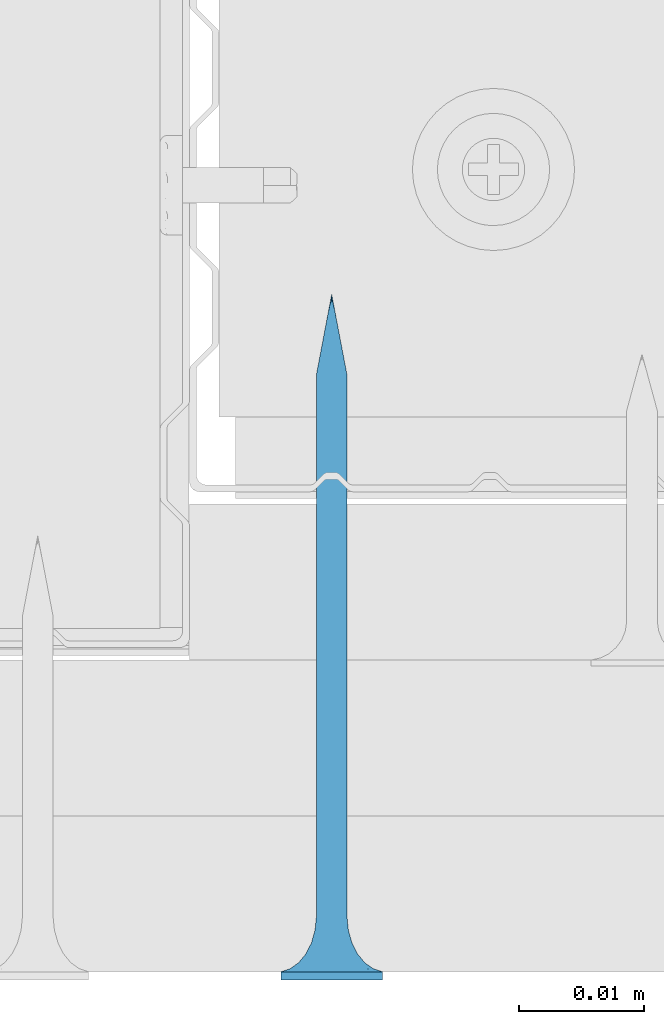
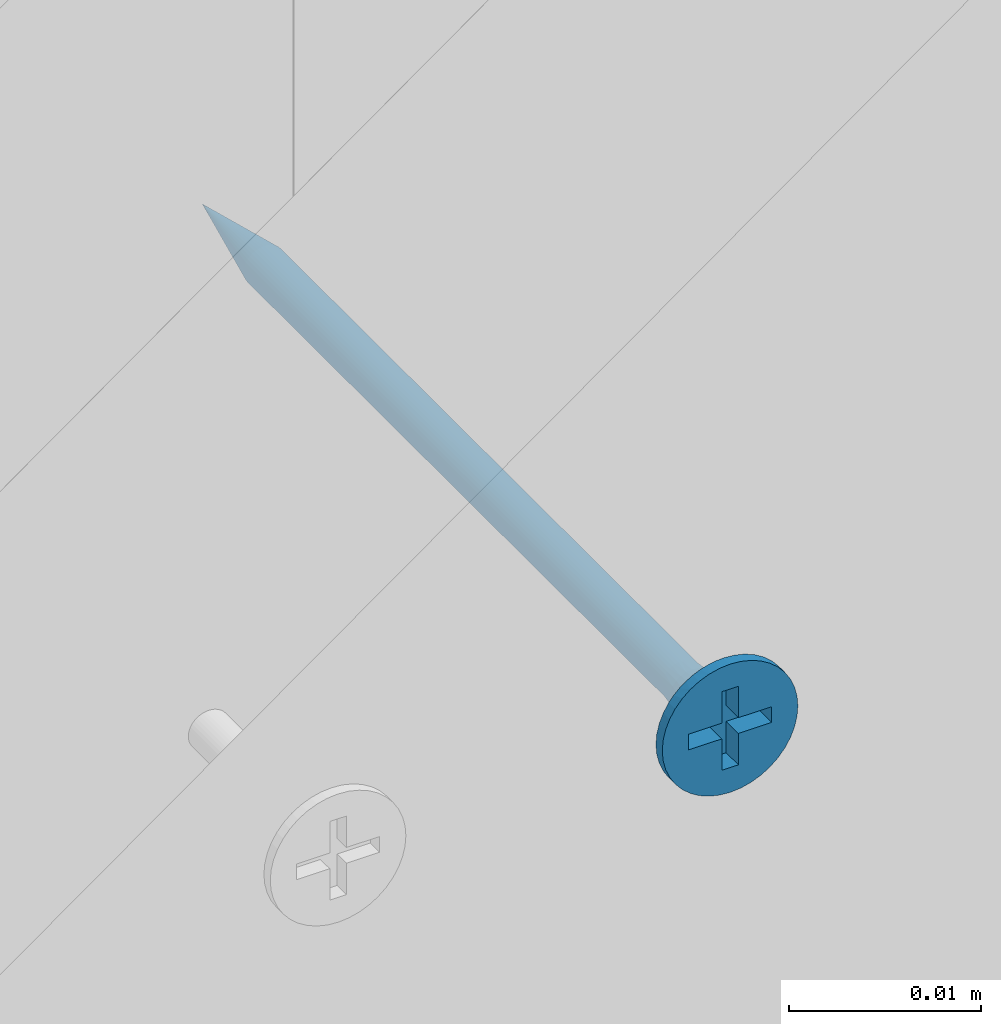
# One storey, part 31 of 39: 1 wall.
"""IFC2X3 building model written with IfcOpenShell, lengths in millimetres."""

from ifc_helpers import new_model, entity, si_unit, converted_unit, direction, frame, origin, origin_with_axes, place, context, project, spatial, faceted_brep, element, save


model = new_model("IFC2X3")

# Units and contexts
model_context = context("Model", 3, precision=1e-05, world=origin(), true_north=direction((0.0, 1.0, 0.0)))
ifc_project = project(units=[si_unit("LENGTHUNIT", "METRE", prefix="MILLI"), si_unit("AREAUNIT", "SQUARE_METRE"), si_unit("VOLUMEUNIT", "CUBIC_METRE"), converted_unit("PLANEANGLEUNIT", "DEGREE", entity("IfcPlaneAngleMeasure", 0.01745), si_unit("PLANEANGLEUNIT", "RADIAN"), dimensions=[0, 0, 0, 0, 0, 0, 0]), si_unit("SOLIDANGLEUNIT", "STERADIAN"), si_unit("MASSUNIT", "GRAM"), si_unit("TIMEUNIT", "SECOND"), si_unit("THERMODYNAMICTEMPERATUREUNIT", "DEGREE_CELSIUS"), si_unit("LUMINOUSINTENSITYUNIT", "LUMEN")], contexts=[model_context])

# Site, building, storey
site_placement = place(None, origin_with_axes())
site = spatial("IfcSite", under=ifc_project, at=site_placement, Name="Default Site", CompositionType="ELEMENT")
building_placement = place(site_placement, origin_with_axes())
building = spatial("IfcBuilding", under=site, at=building_placement, Name="Default Building", CompositionType="ELEMENT")
storey_placement = place(building_placement, origin_with_axes())
storey = spatial("IfcBuildingStorey", under=building, at=storey_placement, Name="Default Building Storey", CompositionType="ELEMENT", Elevation=0.0)

# Wall
wall_placement = place(storey_placement, frame((3059.786749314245, 6754.389343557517, 898.3018531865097), z_axis=(0.0, 0.0, -1.0), x_axis=(1.0, 4.718447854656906e-16, 0.0)))
element("IfcWall", 1, at=wall_placement, inside=storey, Name="Wkręt RIGIPS TN 55", context=model_context, shape_type="Brep", body=[
    faceted_brep([(-136.9005263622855, 4828.206294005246, 554.7035091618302), (-136.7358758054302, 4828.206294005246, 554.8044071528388), (-136.7358758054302, 4784.726408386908, 554.8044071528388), (-136.9005263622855, 4784.726408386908, 554.7035091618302), (-138.629605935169, 4828.206294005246, 556.1802826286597), (-138.629605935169, 4784.726408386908, 556.1802826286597), (-138.5557071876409, 4784.726408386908, 556.3586899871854), (-138.5557071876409, 4828.206294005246, 556.3586899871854), (-138.3293964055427, 4784.726408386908, 556.6701800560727), (-138.182556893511, 4784.726408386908, 556.7955928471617), (-138.182556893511, 4828.206294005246, 556.7955928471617), (-138.3293964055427, 4828.206294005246, 556.6701800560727), (-138.629605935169, 4828.206294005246, 555.4197173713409), (-138.629605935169, 4784.726408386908, 555.4197173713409), (-138.6746858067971, 4784.726408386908, 555.60748855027), (-138.6746858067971, 4828.206294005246, 555.60748855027), (-138.3293964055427, 4828.206294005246, 554.9298199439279), (-138.182556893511, 4828.206294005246, 554.8044071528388), (-138.182556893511, 4784.726408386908, 554.8044071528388), (-138.3293964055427, 4784.726408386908, 554.9298199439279), (-136.2888267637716, 4828.206294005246, 555.4197173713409), (-136.2888267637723, 4784.726408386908, 555.4197173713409), (-136.3627255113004, 4784.726408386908, 555.2413100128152), (-136.3627255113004, 4828.206294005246, 555.2413100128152), (-136.3627255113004, 4828.206294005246, 556.3586899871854), (-136.3627255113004, 4784.726408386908, 556.3586899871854), (-136.2888267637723, 4784.726408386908, 556.1802826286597), (-136.2888267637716, 4828.206294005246, 556.1802826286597), (-136.2437468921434, 4828.206294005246, 555.9925114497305), (-136.2437468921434, 4784.726408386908, 555.9925114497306), (-136.2285959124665, 4784.726408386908, 555.8000000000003), (-136.2285959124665, 4828.206294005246, 555.8000000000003), (-138.4548091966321, 4784.726408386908, 556.5233405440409), (-138.4548091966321, 4828.206294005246, 556.5233405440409), (-136.7358758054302, 4784.726408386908, 556.7955928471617), (-136.5890362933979, 4784.726408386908, 556.6701800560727), (-136.5890362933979, 4828.206294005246, 556.6701800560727), (-136.7358758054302, 4828.206294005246, 556.7955928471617), (-136.4636235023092, 4784.726408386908, 556.5233405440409), (-136.4636235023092, 4828.206294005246, 556.5233405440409), (-137.0789337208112, 4784.726408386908, 556.9703895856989), (-136.9005263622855, 4784.726408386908, 556.8964908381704), (-136.9005263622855, 4828.206294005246, 556.8964908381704), (-137.0789337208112, 4828.206294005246, 556.9703895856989), (-138.6746858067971, 4828.206294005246, 555.9925114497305), (-138.6746858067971, 4784.726408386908, 555.9925114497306), (-138.0179063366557, 4784.726408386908, 556.8964908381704), (-138.0179063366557, 4828.206294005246, 556.8964908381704), (-137.0789337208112, 4828.206294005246, 554.6296104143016), (-137.0789337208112, 4784.726408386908, 554.6296104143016), (-138.0179063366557, 4828.206294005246, 554.7035091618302), (-137.83949897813, 4828.206294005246, 554.6296104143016), (-137.83949897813, 4784.726408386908, 554.6296104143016), (-138.0179063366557, 4784.726408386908, 554.7035091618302), (-138.5557071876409, 4828.206294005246, 555.2413100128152), (-138.5557071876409, 4784.726408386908, 555.2413100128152), (-138.4548091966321, 4828.206294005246, 555.0766594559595), (-138.4548091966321, 4784.726408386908, 555.0766594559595), (-137.2667048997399, 4784.726408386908, 557.0154694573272), (-137.2667048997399, 4828.206294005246, 557.0154694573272), (-137.4592163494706, 4784.726408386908, 557.0306204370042), (-137.4592163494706, 4828.206294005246, 557.0306204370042), (-137.83949897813, 4784.726408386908, 556.9703895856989), (-137.83949897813, 4828.206294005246, 556.9703895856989), (-136.2437468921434, 4828.206294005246, 555.60748855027), (-136.2437468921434, 4784.726408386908, 555.60748855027), (-137.6517277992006, 4828.206294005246, 554.5845305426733), (-137.6517277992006, 4784.726408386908, 554.5845305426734), (-137.4592163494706, 4828.206294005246, 554.5693795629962), (-137.4592163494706, 4784.726408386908, 554.5693795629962), (-137.2667048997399, 4828.206294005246, 554.5845305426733), (-137.2667048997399, 4784.726408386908, 554.5845305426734), (-136.5890362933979, 4828.206294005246, 554.9298199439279), (-136.5890362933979, 4784.726408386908, 554.9298199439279), (-136.4636235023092, 4784.726408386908, 555.0766594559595), (-136.4636235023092, 4828.206294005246, 555.0766594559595), (-138.6898367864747, 4828.206294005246, 555.8000000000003), (-138.6898367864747, 4784.726408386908, 555.8000000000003), (-137.6517277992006, 4784.726408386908, 557.0154694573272), (-137.6517277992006, 4828.206294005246, 557.0154694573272), (-141.5377463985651, 4832.59805152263, 555.8000000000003), (-141.5377463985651, 4833.259713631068, 555.8000000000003), (-141.4875329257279, 4833.259713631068, 555.1619773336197), (-141.4875329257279, 4832.59805152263, 555.1619773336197), (-141.3381289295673, 4833.259713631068, 554.5396649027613), (-141.3381289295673, 4832.59805152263, 554.5396649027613), (-141.0932132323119, 4833.259713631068, 553.9483861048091), (-141.0932132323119, 4832.59805152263, 553.9483861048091), (-140.7588164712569, 4833.259713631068, 553.4027001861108), (-140.7588164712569, 4832.59805152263, 553.4027001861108), (-140.3431726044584, 4833.259713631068, 552.9160437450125), (-140.4541727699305, 4832.59805152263, 553.0314907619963), (-140.1080097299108, 4832.59805152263, 552.6986614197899), (-139.8565161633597, 4833.259713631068, 552.500399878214), (-139.7251262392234, 4832.59805152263, 552.4088262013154), (-139.3108302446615, 4833.259713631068, 552.1660031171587), (-139.3108302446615, 4832.59805152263, 552.1660031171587), (-138.8708651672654, 4832.59805152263, 551.9735584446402), (-138.7195514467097, 4833.259713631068, 551.9210874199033), (-138.4113302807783, 4832.59805152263, 551.8341600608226), (-137.9385961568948, 4832.59805152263, 551.7497404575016), (-138.0972390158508, 4833.259713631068, 551.7716834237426), (-137.4592163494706, 4833.259713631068, 551.7214699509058), (-137.4592163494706, 4832.59805152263, 551.7214699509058), (-136.8211936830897, 4833.259713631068, 551.7716834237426), (-136.8211936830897, 4832.59805152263, 551.7716834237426), (-136.1988812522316, 4833.259713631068, 551.9210874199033), (-136.1988812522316, 4832.59805152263, 551.9210874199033), (-135.6076024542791, 4833.259713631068, 552.1660031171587), (-135.6076024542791, 4832.59805152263, 552.1660031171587), (-135.0619165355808, 4833.259713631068, 552.500399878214), (-135.0619165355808, 4832.59805152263, 552.500399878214), (-134.5752600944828, 4833.259713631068, 552.9160437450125), (-134.5752600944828, 4832.59805152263, 552.9160437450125), (-134.1596162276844, 4833.259713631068, 553.4027001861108), (-134.1596162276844, 4832.59805152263, 553.4027001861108), (-133.8252194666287, 4833.259713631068, 553.9483861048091), (-133.8252194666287, 4832.59805152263, 553.9483861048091), (-133.5803037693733, 4833.259713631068, 554.5396649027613), (-133.5803037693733, 4832.59805152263, 554.5396649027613), (-133.4308997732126, 4833.259713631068, 556.4380226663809), (-133.4308997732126, 4832.59805152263, 556.4380226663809), (-133.3806863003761, 4832.59805152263, 555.8000000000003), (-133.3806863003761, 4833.259713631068, 555.8000000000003), (-133.4308997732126, 4832.59805152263, 555.1619773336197), (-133.4308997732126, 4833.259713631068, 555.1619773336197), (-133.5803037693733, 4833.259713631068, 557.0603350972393), (-133.5803037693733, 4832.59805152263, 557.0603350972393), (-133.8252194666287, 4833.259713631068, 557.6516138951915), (-133.8252194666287, 4832.59805152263, 557.6516138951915), (-134.1596162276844, 4833.259713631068, 558.1972998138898), (-134.1596162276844, 4832.59805152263, 558.1972998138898), (-134.5752600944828, 4833.259713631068, 558.6839562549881), (-134.5752600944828, 4832.59805152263, 558.6839562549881), (-135.0619165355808, 4833.259713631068, 559.0996001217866), (-135.0619165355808, 4832.59805152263, 559.0996001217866), (-135.6076024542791, 4833.259713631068, 559.4339968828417), (-135.6076024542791, 4832.59805152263, 559.4339968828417), (-136.1988812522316, 4833.259713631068, 559.6789125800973), (-136.1988812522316, 4832.59805152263, 559.6789125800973), (-136.8211936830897, 4833.259713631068, 559.8283165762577), (-136.8211936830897, 4832.59805152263, 559.8283165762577), (-137.4592163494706, 4833.259713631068, 559.8785300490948), (-137.4592163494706, 4832.59805152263, 559.8785300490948), (-138.0972390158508, 4833.259713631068, 559.8283165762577), (-138.0972390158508, 4832.59805152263, 559.8283165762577), (-138.7195514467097, 4833.259713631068, 559.6789125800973), (-138.7195514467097, 4832.59805152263, 559.6789125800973), (-139.3108302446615, 4833.259713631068, 559.4339968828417), (-139.3108302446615, 4832.59805152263, 559.4339968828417), (-139.8565161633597, 4833.259713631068, 559.0996001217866), (-139.8565161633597, 4832.59805152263, 559.0996001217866), (-140.3431726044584, 4833.259713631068, 558.6839562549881), (-140.3431726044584, 4832.59805152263, 558.6839562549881), (-140.7588164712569, 4833.259713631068, 558.1972998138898), (-140.7588164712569, 4832.59805152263, 558.1972998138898), (-141.0932132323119, 4833.259713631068, 557.6516138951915), (-141.0932132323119, 4832.59805152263, 557.6516138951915), (-141.3381289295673, 4833.259713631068, 557.0603350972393), (-141.3381289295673, 4832.59805152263, 557.0603350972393), (-141.4875329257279, 4833.259713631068, 556.4380226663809), (-141.4875329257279, 4832.59805152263, 556.4380226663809), (-137.8060615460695, 4829.281368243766, 554.5055560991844), (-137.4592163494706, 4829.281368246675, 554.4598930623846), (-138.1292698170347, 4829.281368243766, 554.6394333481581), (-138.4068150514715, 4829.281368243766, 554.8524012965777), (-138.6197830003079, 4829.281368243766, 555.1299465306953), (-138.7536602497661, 4829.281368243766, 555.4531548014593), (-138.7993232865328, 4829.281368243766, 555.7999999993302), (-138.7536602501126, 4829.281368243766, 556.1468451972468), (-138.6197830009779, 4829.281368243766, 556.4700534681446), (-138.4068150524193, 4829.281368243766, 556.7475987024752), (-138.1292698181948, 4829.281368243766, 556.9605666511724), (-137.8060615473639, 4829.281368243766, 557.0944439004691), (-137.4592163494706, 4829.281368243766, 557.1401069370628), (-137.1123711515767, 4829.281368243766, 557.0944439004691), (-136.7891628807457, 4829.281368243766, 556.9605666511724), (-136.5116176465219, 4829.281368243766, 556.7475987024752), (-136.2986496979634, 4829.281368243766, 556.4700534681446), (-136.1647724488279, 4829.281368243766, 556.1468451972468), (-136.1191094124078, 4829.281368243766, 555.7999999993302), (-136.1647724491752, 4829.281368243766, 555.4531548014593), (-136.2986496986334, 4829.281368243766, 555.1299465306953), (-136.5116176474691, 4829.281368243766, 554.8524012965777), (-136.7891628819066, 4829.281368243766, 554.6394333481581), (-137.112371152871, 4829.281368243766, 554.5055560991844), (-137.4592163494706, 4830.288222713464, 554.1737111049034), (-137.8801308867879, 4830.288222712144, 554.229125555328), (-138.2723607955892, 4830.288222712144, 554.3915925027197), (-138.6091762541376, 4830.288222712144, 554.6500400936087), (-138.8676238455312, 4830.288222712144, 554.9868555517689), (-139.0300907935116, 4830.288222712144, 555.3790854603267), (-139.0855052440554, 4830.288222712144, 555.7999999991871), (-139.0300907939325, 4830.288222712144, 556.220914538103), (-138.8676238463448, 4830.288222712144, 556.6131444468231), (-138.6091762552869, 4830.288222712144, 556.9499599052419), (-138.2723607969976, 4830.288222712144, 557.2084074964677), (-137.8801308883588, 4830.288222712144, 557.3708744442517), (-137.4592163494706, 4830.288222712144, 557.426288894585), (-137.0383018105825, 4830.288222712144, 557.3708744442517), (-136.6460719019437, 4830.288222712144, 557.2084074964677), (-136.3092564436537, 4830.288222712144, 556.9499599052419), (-136.0508088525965, 4830.288222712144, 556.6131444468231), (-135.8883419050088, 4830.288222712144, 556.220914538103), (-135.8329274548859, 4830.288222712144, 555.7999999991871), (-135.8883419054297, 4830.288222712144, 555.3790854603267), (-136.0508088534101, 4830.288222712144, 554.9868555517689), (-136.3092564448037, 4830.288222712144, 554.6500400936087), (-136.6460719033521, 4830.288222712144, 554.3915925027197), (-137.0383018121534, 4830.288222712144, 554.229125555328), (-137.4592163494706, 4831.168773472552, 553.7273431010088), (-137.9956594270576, 4831.168773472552, 553.7979671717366), (-138.4955447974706, 4831.168773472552, 554.0050264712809), (-138.9248060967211, 4831.168773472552, 554.3344102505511), (-139.2541898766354, 4831.168773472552, 554.763671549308), (-139.4612491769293, 4831.168773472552, 555.2635569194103), (-139.5318732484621, 4831.168773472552, 555.799999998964), (-139.4612491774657, 4831.168773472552, 556.3364430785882), (-139.2541898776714, 4831.168773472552, 556.8363284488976), (-138.9248060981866, 4831.168773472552, 557.2655897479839), (-138.4955447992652, 4831.168773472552, 557.594973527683), (-137.9956594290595, 4831.168773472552, 557.8020328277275), (-137.4592163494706, 4831.168773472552, 557.8726568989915), (-136.9227732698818, 4831.168773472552, 557.8020328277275), (-136.4228878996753, 4831.168773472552, 557.594973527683), (-135.993626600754, 4831.168773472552, 557.2655897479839), (-135.6642428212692, 4831.168773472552, 556.8363284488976), (-135.4571835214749, 4831.168773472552, 556.3364430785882), (-135.3865594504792, 4831.168773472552, 555.799999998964), (-135.4571835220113, 4831.168773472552, 555.2635569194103), (-135.6642428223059, 4831.168773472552, 554.763671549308), (-135.9936266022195, 4831.168773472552, 554.3344102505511), (-136.4228879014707, 4831.168773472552, 554.0050264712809), (-136.9227732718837, 4831.168773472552, 553.7979671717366), (-137.4592163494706, 4831.872222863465, 553.1465393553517), (-138.1459824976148, 4831.872222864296, 553.2369538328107), (-138.7859466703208, 4831.872222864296, 553.5020356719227), (-139.3354963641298, 4831.872222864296, 553.9237199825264), (-139.7571806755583, 4831.872222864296, 554.4732696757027), (-140.02226251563, 4831.872222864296, 555.1132338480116), (-140.1126769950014, 4831.872222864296, 555.7999999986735), (-140.0222625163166, 4831.872222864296, 556.4867661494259), (-139.7571806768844, 4831.872222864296, 557.1267303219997), (-139.335496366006, 4831.872222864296, 557.6762800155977), (-138.7859466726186, 4831.872222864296, 558.097964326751), (-138.1459825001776, 4831.872222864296, 558.363046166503), (-137.4592163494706, 4831.872222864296, 558.4534606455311), (-136.7724501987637, 4831.872222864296, 558.363046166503), (-136.1324860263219, 4831.872222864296, 558.097964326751), (-135.5829363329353, 4831.872222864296, 557.6762800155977), (-135.1612520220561, 4831.872222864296, 557.1267303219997), (-134.8961701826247, 4831.872222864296, 556.4867661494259), (-134.8057557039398, 4831.872222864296, 555.7999999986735), (-134.8961701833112, 4831.872222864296, 555.1132338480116), (-135.161252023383, 4831.872222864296, 554.4732696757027), (-135.5829363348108, 4831.872222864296, 553.9237199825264), (-136.1324860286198, 4831.872222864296, 553.5020356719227), (-136.7724502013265, 4831.872222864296, 553.2369538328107), (-137.4592163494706, 4832.35798993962, 552.4648055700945), (-138.3224281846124, 4832.357989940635, 552.578449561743), (-139.1268135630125, 4832.357989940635, 552.9116368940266), (-139.8175549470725, 4832.357989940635, 553.4416613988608), (-140.3475794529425, 4832.357989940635, 554.1324027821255), (-140.6807667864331, 4832.357989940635, 554.936788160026), (-140.7944107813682, 4832.357989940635, 555.7999999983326), (-140.6807667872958, 4832.357989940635, 556.663211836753), (-140.3475794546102, 4832.357989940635, 557.4675972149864), (-139.817554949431, 4832.357989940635, 558.1583385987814), (-139.1268135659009, 4832.357989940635, 558.6883631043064), (-138.3224281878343, 4832.357989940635, 559.0215504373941), (-137.4592163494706, 4832.357989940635, 559.1351944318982), (-136.5960045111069, 4832.357989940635, 559.0215504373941), (-135.7916191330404, 4832.357989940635, 558.6883631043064), (-135.1008777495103, 4832.357989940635, 558.1583385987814), (-134.5708532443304, 4832.357989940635, 557.4675972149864), (-134.2376659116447, 4832.357989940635, 556.663211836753), (-134.1240219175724, 4832.357989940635, 555.7999999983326), (-134.2376659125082, 4832.357989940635, 554.936788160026), (-134.570853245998, 4832.357989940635, 554.1324027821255), (-135.1008777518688, 4832.357989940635, 553.4416613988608), (-135.7916191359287, 4832.357989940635, 552.9116368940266), (-136.5960045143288, 4832.357989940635, 552.578449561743), (-137.4592163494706, 4778.259713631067, 555.8000000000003), (-139.9592163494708, 4833.259713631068, 556.3000000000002), (-137.9592163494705, 4833.259713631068, 556.3000000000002), (-139.9592163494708, 4833.259713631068, 555.3000000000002), (-137.9592163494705, 4833.259713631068, 555.3000000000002), (-137.9592163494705, 4833.259713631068, 553.3000000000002), (-136.9592163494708, 4833.259713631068, 553.3000000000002), (-136.9592163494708, 4833.259713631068, 555.3000000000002), (-134.9592163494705, 4833.259713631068, 555.3000000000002), (-134.9592163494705, 4833.259713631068, 556.3000000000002), (-136.9592163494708, 4833.259713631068, 556.3000000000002), (-136.9592163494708, 4833.259713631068, 558.3000000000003), (-137.9592163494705, 4833.259713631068, 558.3000000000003), (-136.9592163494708, 4831.988379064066, 556.3000000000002), (-134.9592163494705, 4831.988379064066, 556.3000000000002), (-134.9592163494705, 4831.988379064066, 555.3000000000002), (-136.9592163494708, 4831.988379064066, 555.3000000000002), (-136.9592163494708, 4831.988379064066, 553.3000000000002), (-137.9592163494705, 4831.988379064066, 553.3000000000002), (-137.9592163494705, 4831.988379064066, 555.3000000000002), (-139.9592163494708, 4831.988379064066, 555.3000000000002), (-139.9592163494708, 4831.988379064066, 556.3000000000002), (-137.9592163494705, 4831.988379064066, 556.3000000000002), (-137.9592163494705, 4831.988379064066, 558.3000000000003), (-136.9592163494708, 4831.988379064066, 558.3000000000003)], [[[0, 1, 2, 3]], [[4, 5, 6, 7]], [[8, 9, 10, 11]], [[12, 13, 14, 15]], [[16, 17, 18, 19]], [[20, 21, 22, 23]], [[24, 25, 26, 27]], [[28, 29, 30, 31]], [[7, 6, 32, 33]], [[34, 35, 36, 37]], [[36, 35, 38, 39]], [[40, 41, 42, 43]], [[44, 45, 5, 4]], [[9, 46, 47, 10]], [[41, 34, 37, 42]], [[48, 0, 3, 49]], [[33, 32, 8, 11]], [[50, 51, 52, 53]], [[54, 55, 13, 12]], [[56, 57, 55, 54]], [[58, 40, 43, 59]], [[60, 58, 59, 61]], [[16, 19, 57, 56]], [[17, 50, 53, 18]], [[39, 38, 25, 24]], [[46, 62, 63, 47]], [[64, 65, 21, 20]], [[51, 66, 67, 52]], [[66, 68, 69, 67]], [[68, 70, 71, 69]], [[1, 72, 73, 2]], [[23, 22, 74, 75]], [[27, 26, 29, 28]], [[76, 77, 45, 44]], [[75, 74, 73, 72]], [[31, 30, 65, 64]], [[78, 60, 61, 79]], [[62, 78, 79, 63]], [[70, 48, 49, 71]], [[15, 14, 77, 76]], [[80, 81, 82, 83]], [[84, 85, 83, 82]], [[86, 87, 85, 84]], [[87, 86, 88, 89]], [[88, 90, 89]], [[90, 91, 89]], [[92, 91, 93]], [[91, 90, 93]], [[93, 94, 92]], [[93, 95, 94]], [[95, 96, 94]], [[97, 96, 98]], [[96, 95, 98]], [[98, 99, 97]], [[100, 99, 101]], [[99, 98, 101]], [[101, 102, 100]], [[102, 103, 100]], [[103, 102, 104, 105]], [[106, 107, 105, 104]], [[108, 109, 107, 106]], [[109, 108, 110, 111]], [[112, 113, 111, 110]], [[113, 112, 114, 115]], [[116, 117, 115, 114]], [[118, 119, 117, 116]], [[120, 121, 122, 123]], [[123, 122, 124, 125]], [[119, 118, 125, 124]], [[126, 127, 121, 120]], [[128, 129, 127, 126]], [[129, 128, 130, 131]], [[132, 133, 131, 130]], [[133, 132, 134, 135]], [[136, 137, 135, 134]], [[138, 139, 137, 136]], [[139, 138, 140, 141]], [[142, 143, 141, 140]], [[143, 142, 144, 145]], [[146, 147, 145, 144]], [[148, 149, 147, 146]], [[149, 148, 150, 151]], [[152, 153, 151, 150]], [[153, 152, 154, 155]], [[156, 157, 155, 154]], [[158, 159, 157, 156]], [[159, 158, 160, 161]], [[81, 80, 161, 160]], [[162, 68, 66]], [[162, 163, 68]], [[66, 51, 162]], [[162, 51, 164]], [[50, 164, 51]], [[164, 50, 17]], [[17, 165, 164]], [[17, 16, 165]], [[166, 16, 56]], [[166, 165, 16]], [[56, 54, 166]], [[166, 54, 167]], [[12, 167, 54]], [[167, 12, 15]], [[15, 168, 167]], [[15, 76, 168]], [[169, 76, 44]], [[169, 168, 76]], [[44, 4, 169]], [[169, 4, 170]], [[7, 170, 4]], [[170, 7, 33]], [[33, 171, 170]], [[33, 11, 171]], [[172, 11, 10]], [[172, 171, 11]], [[10, 47, 172]], [[172, 47, 173]], [[63, 173, 47]], [[173, 63, 79]], [[79, 174, 173]], [[79, 61, 174]], [[175, 61, 59]], [[175, 174, 61]], [[59, 43, 175]], [[175, 43, 176]], [[42, 176, 43]], [[176, 42, 37]], [[37, 177, 176]], [[37, 36, 177]], [[178, 36, 39]], [[178, 177, 36]], [[39, 24, 178]], [[178, 24, 179]], [[27, 179, 24]], [[179, 27, 28]], [[28, 180, 179]], [[28, 31, 180]], [[181, 31, 64]], [[181, 180, 31]], [[64, 20, 181]], [[181, 20, 182]], [[23, 182, 20]], [[182, 23, 75]], [[75, 183, 182]], [[75, 72, 183]], [[184, 72, 1]], [[184, 183, 72]], [[1, 0, 184]], [[184, 0, 185]], [[48, 185, 0]], [[185, 48, 70]], [[70, 163, 185]], [[70, 68, 163]], [[186, 163, 187]], [[162, 187, 163]], [[164, 188, 187, 162]], [[165, 189, 188, 164]], [[166, 190, 189, 165]], [[167, 191, 190, 166]], [[168, 192, 191, 167]], [[169, 193, 192, 168]], [[170, 194, 193, 169]], [[171, 195, 194, 170]], [[172, 196, 195, 171]], [[173, 197, 196, 172]], [[174, 198, 197, 173]], [[175, 199, 198, 174]], [[176, 200, 199, 175]], [[177, 201, 200, 176]], [[178, 202, 201, 177]], [[179, 203, 202, 178]], [[180, 204, 203, 179]], [[181, 205, 204, 180]], [[182, 206, 205, 181]], [[183, 207, 206, 182]], [[184, 208, 207, 183]], [[185, 209, 208, 184]], [[185, 163, 209]], [[186, 209, 163]], [[210, 186, 211]], [[187, 211, 186]], [[188, 212, 211, 187]], [[189, 213, 212, 188]], [[190, 214, 213, 189]], [[191, 215, 214, 190]], [[192, 216, 215, 191]], [[193, 217, 216, 192]], [[194, 218, 217, 193]], [[195, 219, 218, 194]], [[196, 220, 219, 195]], [[197, 221, 220, 196]], [[198, 222, 221, 197]], [[199, 223, 222, 198]], [[200, 224, 223, 199]], [[201, 225, 224, 200]], [[202, 226, 225, 201]], [[203, 227, 226, 202]], [[204, 228, 227, 203]], [[205, 229, 228, 204]], [[206, 230, 229, 205]], [[207, 231, 230, 206]], [[208, 232, 231, 207]], [[209, 233, 232, 208]], [[209, 186, 233]], [[210, 233, 186]], [[234, 210, 235]], [[211, 235, 210]], [[212, 236, 235, 211]], [[213, 237, 236, 212]], [[214, 238, 237, 213]], [[215, 239, 238, 214]], [[216, 240, 239, 215]], [[217, 241, 240, 216]], [[218, 242, 241, 217]], [[219, 243, 242, 218]], [[220, 244, 243, 219]], [[221, 245, 244, 220]], [[222, 246, 245, 221]], [[223, 247, 246, 222]], [[224, 248, 247, 223]], [[225, 249, 248, 224]], [[226, 250, 249, 225]], [[227, 251, 250, 226]], [[228, 252, 251, 227]], [[229, 253, 252, 228]], [[230, 254, 253, 229]], [[231, 255, 254, 230]], [[232, 256, 255, 231]], [[233, 257, 256, 232]], [[233, 210, 257]], [[234, 257, 210]], [[258, 99, 100]], [[258, 259, 99]], [[100, 103, 258]], [[258, 234, 259]], [[235, 259, 234]], [[259, 96, 97]], [[259, 260, 96]], [[97, 99, 259]], [[236, 260, 259, 235]], [[261, 91, 92]], [[260, 92, 94]], [[260, 261, 92]], [[94, 96, 260]], [[237, 261, 260, 236]], [[262, 87, 89]], [[89, 261, 262]], [[89, 91, 261]], [[238, 262, 261, 237]], [[85, 87, 263]], [[262, 263, 87]], [[239, 263, 262, 238]], [[263, 80, 83]], [[263, 264, 80]], [[83, 85, 263]], [[240, 264, 263, 239]], [[265, 159, 161]], [[161, 264, 265]], [[161, 80, 264]], [[241, 265, 264, 240]], [[265, 266, 157, 159]], [[242, 266, 265, 241]], [[266, 153, 155]], [[266, 267, 153]], [[155, 157, 266]], [[243, 267, 266, 242]], [[268, 149, 151]], [[151, 267, 268]], [[151, 153, 267]], [[244, 268, 267, 243]], [[268, 269, 147, 149]], [[245, 269, 268, 244]], [[269, 143, 145]], [[269, 270, 143]], [[145, 147, 269]], [[246, 270, 269, 245]], [[271, 139, 141]], [[141, 270, 271]], [[141, 143, 270]], [[247, 271, 270, 246]], [[271, 272, 137, 139]], [[248, 272, 271, 247]], [[272, 133, 135]], [[272, 273, 133]], [[135, 137, 272]], [[249, 273, 272, 248]], [[274, 129, 131]], [[131, 273, 274]], [[131, 133, 273]], [[250, 274, 273, 249]], [[274, 275, 127, 129]], [[251, 275, 274, 250]], [[275, 122, 121]], [[275, 276, 122]], [[121, 127, 275]], [[252, 276, 275, 251]], [[277, 119, 124]], [[124, 276, 277]], [[124, 122, 276]], [[253, 277, 276, 252]], [[117, 119, 278]], [[277, 278, 119]], [[254, 278, 277, 253]], [[278, 113, 115]], [[278, 279, 113]], [[115, 117, 278]], [[255, 279, 278, 254]], [[280, 109, 111]], [[111, 279, 280]], [[111, 113, 279]], [[256, 280, 279, 255]], [[107, 109, 281]], [[280, 281, 109]], [[257, 281, 280, 256]], [[257, 234, 281]], [[258, 281, 234]], [[281, 103, 105]], [[281, 258, 103]], [[105, 107, 281]], [[14, 13, 282]], [[282, 77, 14]], [[13, 55, 282]], [[57, 19, 282]], [[282, 55, 57]], [[18, 53, 282]], [[282, 19, 18]], [[53, 52, 282]], [[67, 69, 282]], [[282, 52, 67]], [[71, 49, 282]], [[282, 69, 71]], [[49, 3, 282]], [[2, 73, 282]], [[282, 3, 2]], [[74, 22, 282]], [[282, 73, 74]], [[22, 21, 282]], [[65, 30, 282]], [[282, 21, 65]], [[29, 26, 282]], [[282, 30, 29]], [[26, 25, 282]], [[38, 35, 282]], [[282, 25, 38]], [[34, 41, 282]], [[282, 35, 34]], [[41, 40, 282]], [[58, 60, 282]], [[282, 40, 58]], [[78, 62, 282]], [[282, 60, 78]], [[62, 46, 282]], [[9, 8, 282]], [[282, 46, 9]], [[32, 6, 282]], [[282, 8, 32]], [[6, 5, 282]], [[45, 77, 282]], [[282, 5, 45]], [[283, 156, 154, 284]], [[283, 285, 286, 287, 288, 289, 290, 291, 292, 293, 294, 284, 154, 152, 150, 148, 146, 144, 142, 140, 138, 136, 134, 132, 130, 128, 126, 120, 123, 125, 118, 116, 114, 112, 110, 108, 106, 104, 102, 101, 98, 95, 93, 90, 88, 86, 84, 82, 81, 160, 158, 156]], [[295, 296, 297, 298, 299, 300, 301, 302, 303, 304, 305, 306]], [[297, 290, 289, 298]], [[296, 291, 290, 297]], [[295, 292, 291, 296]], [[306, 293, 292, 295]], [[305, 294, 293, 306]], [[304, 284, 294, 305]], [[303, 283, 284, 304]], [[302, 285, 283, 303]], [[301, 286, 285, 302]], [[300, 287, 286, 301]], [[299, 288, 287, 300]], [[298, 289, 288, 299]]]),
])

save(model, "model.ifc")
